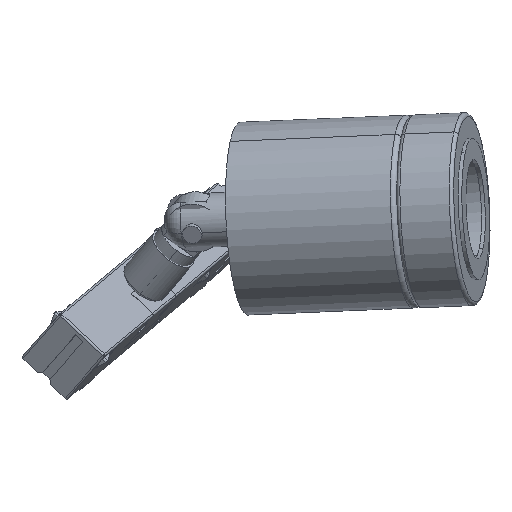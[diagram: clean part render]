
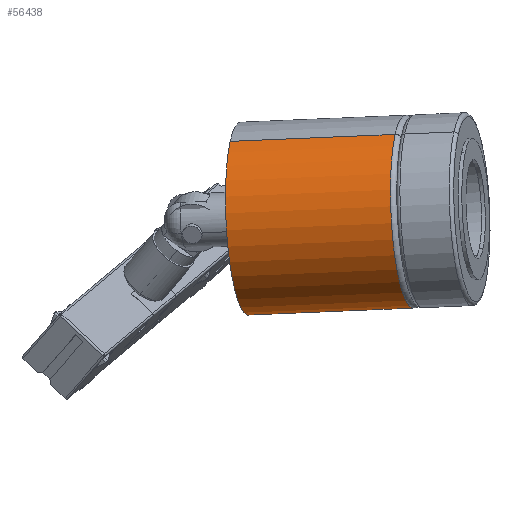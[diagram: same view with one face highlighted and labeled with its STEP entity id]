
A CAD part, left-side view. The second image highlights one B-rep face of the part: STEP entity #56438.
In plain terms, the highlighted cylindrical face has radius 25 mm (diameter 50 mm), a partial arc.
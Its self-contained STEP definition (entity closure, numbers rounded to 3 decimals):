
#3183 = AXIS2_PLACEMENT_3D ( 'NONE', #28273, #71929, #78186 ) ;
#5053 = CARTESIAN_POINT ( 'NONE',  ( 0., 45., 25. ) ) ;
#6652 = LINE ( 'NONE', #5053, #70970 ) ;
#8305 = EDGE_CURVE ( 'NONE', #43888, #65884, #54351, .T. ) ;
#8719 = CARTESIAN_POINT ( 'NONE',  ( 0., 45., 25. ) ) ;
#8829 = ORIENTED_EDGE ( 'NONE', *, *, #66693, .T. ) ;
#11568 = ORIENTED_EDGE ( 'NONE', *, *, #68687, .F. ) ;
#13671 = DIRECTION ( 'NONE',  ( 0., 1., 0. ) ) ;
#14238 = EDGE_LOOP ( 'NONE', ( #22346, #11568, #78992, #8829 ) ) ;
#22346 = ORIENTED_EDGE ( 'NONE', *, *, #51410, .F. ) ;
#28234 = CARTESIAN_POINT ( 'NONE',  ( 0., 1.5, -25. ) ) ;
#28273 = CARTESIAN_POINT ( 'NONE',  ( 0., 45., 0. ) ) ;
#29606 = VERTEX_POINT ( 'NONE', #40671 ) ;
#29742 = DIRECTION ( 'NONE',  ( 0., -1., 0. ) ) ;
#32697 = VERTEX_POINT ( 'NONE', #8719 ) ;
#33628 = CARTESIAN_POINT ( 'NONE',  ( 0., 45., 0. ) ) ;
#37523 = CIRCLE ( 'NONE', #3183, 25. ) ;
#39691 = DIRECTION ( 'NONE',  ( 0., -1., 0. ) ) ;
#40671 = CARTESIAN_POINT ( 'NONE',  ( 0., 1.5, 25. ) ) ;
#41169 = AXIS2_PLACEMENT_3D ( 'NONE', #69574, #13671, #51018 ) ;
#41700 = VECTOR ( 'NONE', #29742, 1000. ) ;
#43888 = VERTEX_POINT ( 'NONE', #67934 ) ;
#48388 = DIRECTION ( 'NONE',  ( 0., -1., 0. ) ) ;
#48984 = AXIS2_PLACEMENT_3D ( 'NONE', #33628, #39691, #52213 ) ;
#51018 = DIRECTION ( 'NONE',  ( 0., 0., 1. ) ) ;
#51410 = EDGE_CURVE ( 'NONE', #32697, #29606, #6652, .T. ) ;
#52213 = DIRECTION ( 'NONE',  ( 0., 0., -1. ) ) ;
#54351 = LINE ( 'NONE', #67136, #41700 ) ;
#56438 = ADVANCED_FACE ( 'NONE', ( #61909 ), #72693, .T. ) ;
#61909 = FACE_OUTER_BOUND ( 'NONE', #14238, .T. ) ;
#65884 = VERTEX_POINT ( 'NONE', #28234 ) ;
#66693 = EDGE_CURVE ( 'NONE', #65884, #29606, #71100, .T. ) ;
#67136 = CARTESIAN_POINT ( 'NONE',  ( 0., 45., -25. ) ) ;
#67934 = CARTESIAN_POINT ( 'NONE',  ( 0., 45., -25. ) ) ;
#68687 = EDGE_CURVE ( 'NONE', #43888, #32697, #37523, .T. ) ;
#69574 = CARTESIAN_POINT ( 'NONE',  ( 0., 1.5, 0. ) ) ;
#70970 = VECTOR ( 'NONE', #48388, 1000. ) ;
#71100 = CIRCLE ( 'NONE', #41169, 25. ) ;
#71929 = DIRECTION ( 'NONE',  ( 0., 1., 0. ) ) ;
#72693 = CYLINDRICAL_SURFACE ( 'NONE', #48984, 25. ) ;
#78186 = DIRECTION ( 'NONE',  ( 0., 0., 1. ) ) ;
#78992 = ORIENTED_EDGE ( 'NONE', *, *, #8305, .T. ) ;
